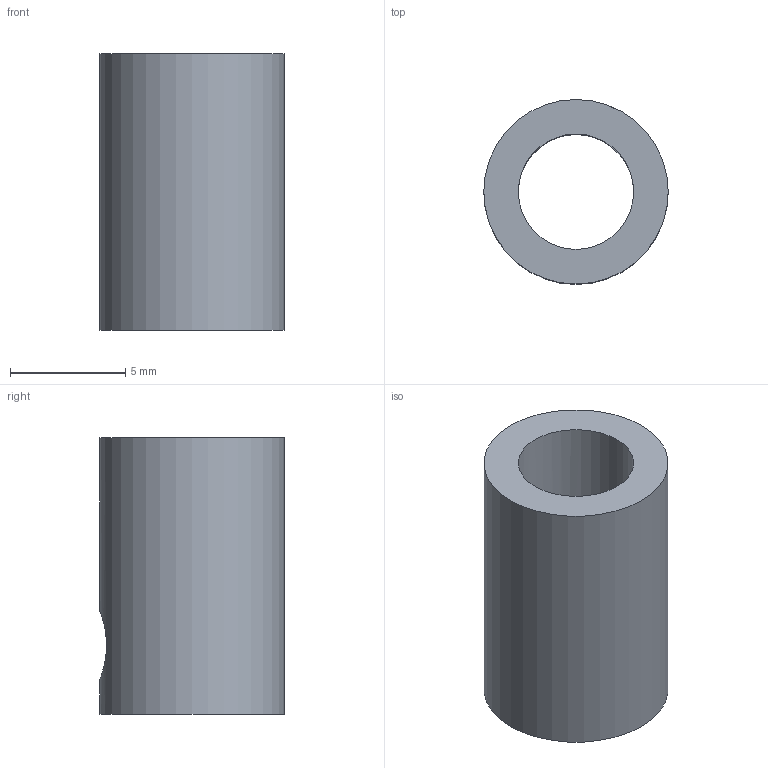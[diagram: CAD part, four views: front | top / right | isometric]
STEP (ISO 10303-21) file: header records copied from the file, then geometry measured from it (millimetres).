
FILE_DESCRIPTION(/* description */ (''),/* implementation_level */ '2;1');
FILE_NAME(/* name */ 'entretoise moteur cremaillere.stp',/* time_stamp */ '2025-04-08T16:53:56+02:00',/* author */ ('enezl'),/* organization */ (''),/* preprocessor_version */ 'ST-DEVELOPER v20',/* originating_system */ 'Autodesk Inventor 2025',/* authorisation */ '');
FILE_SCHEMA (('AUTOMOTIVE_DESIGN { 1 0 10303 214 3 1 1 }'));
Length unit declared in the file: millimetre
Products named in the file (1): entretoise moteur cremaillere
Bounding box: 8 x 8 x 12 mm (x, y, z)
Volume: 356.6 mm3; surface area: 551.8 mm2
Topology: 1 solids, 1 shells, 5 faces, 11 edges, 8 vertices
Faces by surface type: cylinder 3, plane 2
Full cylindrical faces by diameter (mm): 3 x1, 5 x1, 8 x1
Entity records: 256 total; most frequent: CARTESIAN_POINT 93, DIRECTION 23, ORIENTED_EDGE 22, EDGE_CURVE 11, AXIS2_PLACEMENT_3D 10, EDGE_LOOP 9, VERTEX_POINT 8, FACE_OUTER_BOUND 5
